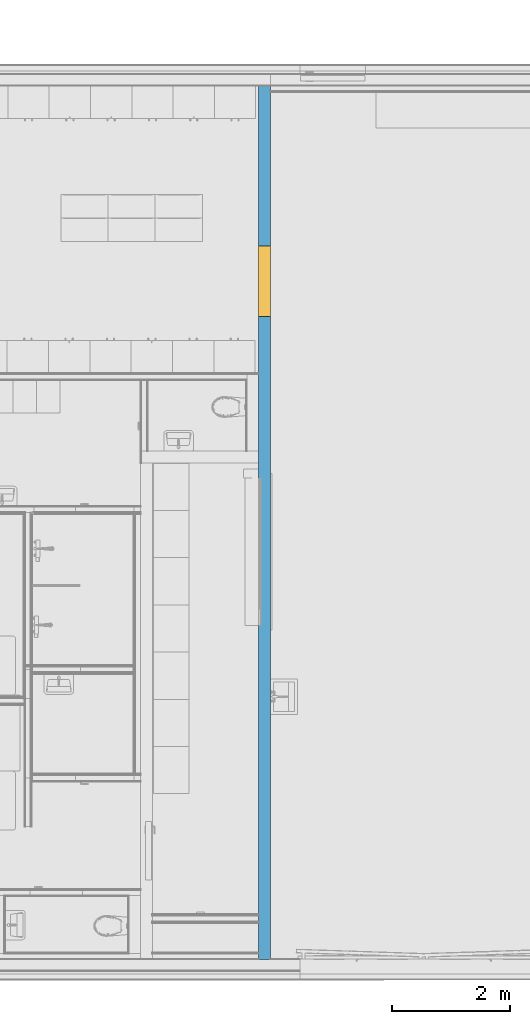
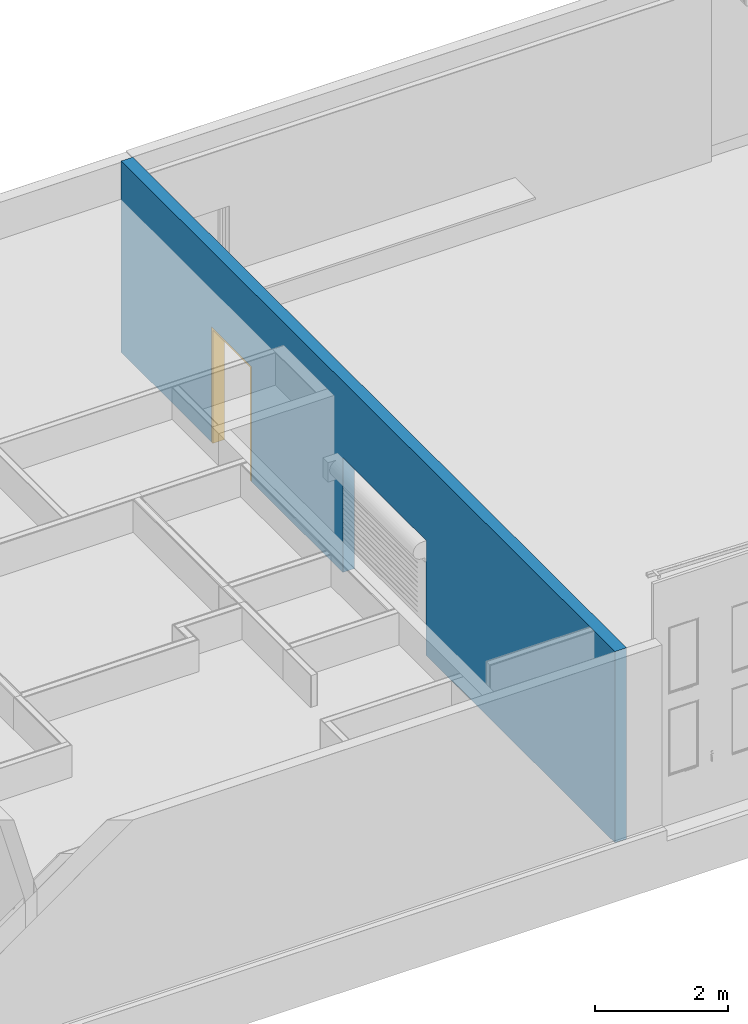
# One storey, part 17 of 67: 1 building element part, 1 door, 2 openings, 1 element without a shape of its own.
"""IFC4 building model written with IfcOpenShell, lengths in millimetres."""

import ifcopenshell
import ifcopenshell.guid

model = None  # the IFC model being written
_history = None  # IfcOwnerHistory: only IFC2X3 demands one
_inside = {}  # id of a spatial element -> (the spatial element, [elements in it])
_under = {}  # id of a project, library or spatial element -> (it, [spatial elements below it])
_declared = {}  # id of a project -> (the project, [libraries it declares])
_typed = {}  # id of a type object -> (the type object, [elements of that type])
_made_of = {}  # id of a material, layer set ... -> (it, [elements and type objects made of it])


def new_model(schema):
    """Start an empty IFC model of exactly this schema.

    Asked for "IFC4X3", IfcOpenShell would pick the latest addendum, in which some entities
    have other attributes; the version numbers below select the first issue.
    IFC2X3 requires an IfcOwnerHistory on every rooted entity: one is made here for all.
    """
    global model, _history
    if schema == "IFC4X3":
        model = ifcopenshell.file(schema_version=(4, 3, 0, 0))
    else:
        model = ifcopenshell.file(schema=schema)
    _inside.clear()
    _under.clear()
    _declared.clear()
    _typed.clear()
    _made_of.clear()
    _history = None
    if model.schema == "IFC2X3":
        org = make("IfcOrganization", Name="unknown")
        user = make(
            "IfcPersonAndOrganization",
            ThePerson=make("IfcPerson", FamilyName="unknown"),
            TheOrganization=org,
        )
        app = make(
            "IfcApplication",
            ApplicationDeveloper=org,
            Version="unknown",
            ApplicationFullName="unknown",
            ApplicationIdentifier="unknown",
        )
        _history = make(
            "IfcOwnerHistory",
            OwningUser=user,
            OwningApplication=app,
            ChangeAction="ADDED",
            CreationDate=0,
        )
    return model


def make(cls, **values):
    """One entity of the class cls with the attributes given. An attribute that is None is left unset."""
    return model.create_entity(
        cls, **{name: value for name, value in values.items() if value is not None}
    )


def entity(cls, *values):
    """Any entity or typed value of the class cls, its attributes in the order of the schema. None: left unset."""
    e = model.create_entity(cls)
    for i, value in enumerate(values):
        if value is not None:
            e[i] = value
    return e


def rooted(cls, **values):
    """An entity with a GlobalId (a new one), such as an element, a storey or a relation."""
    return make(cls, GlobalId=ifcopenshell.guid.new(), OwnerHistory=_history, **values)


def si_unit(unit_type, name, prefix=None):
    """IfcSIUnit, for example si_unit("LENGTHUNIT", "METRE", prefix="MILLI")."""
    return make("IfcSIUnit", UnitType=unit_type, Prefix=prefix, Name=name)


def converted_unit(unit_type, name, factor, base, dimensions=None, offset=None):
    """IfcConversionBasedUnit, such as the inch: factor (a typed value) times the base unit."""
    return make(
        "IfcConversionBasedUnit"
        if offset is None
        else "IfcConversionBasedUnitWithOffset",
        ConversionOffset=offset,
        Dimensions=None
        if dimensions is None
        else entity("IfcDimensionalExponents", *dimensions),
        UnitType=unit_type,
        Name=name,
        ConversionFactor=make(
            "IfcMeasureWithUnit", ValueComponent=factor, UnitComponent=base
        ),
    )


def assignment(units):
    """IfcUnitAssignment: the units of a project."""
    return None if units is None else make("IfcUnitAssignment", Units=units)


def point(xyz):
    """IfcCartesianPoint."""
    return None if xyz is None else make("IfcCartesianPoint", Coordinates=xyz)


def direction(xyz):
    """IfcDirection."""
    return None if xyz is None else make("IfcDirection", DirectionRatios=xyz)


def frame(location, z_axis=None, x_axis=None):
    """IfcAxis2Placement3D, a coordinate frame: its origin and axes. An axis left out is left unset."""
    return make(
        "IfcAxis2Placement3D",
        Location=point(location),
        Axis=direction(z_axis),
        RefDirection=direction(x_axis),
    )


def origin():
    """The frame at (0, 0, 0) with its axes left unset."""
    return frame((0.0, 0.0, 0.0))


def place(relative_to, where):
    """IfcLocalPlacement: puts the frame where relative to a parent placement (None: the world)."""
    return make(
        "IfcLocalPlacement", PlacementRelTo=relative_to, RelativePlacement=where
    )


def context(
    kind, dimensions, precision=None, world=None, true_north=None, identifier=None
):
    """IfcGeometricRepresentationContext, for example the 3D "Model" context."""
    return make(
        "IfcGeometricRepresentationContext",
        ContextIdentifier=identifier,
        ContextType=kind,
        CoordinateSpaceDimension=dimensions,
        Precision=precision,
        WorldCoordinateSystem=world,
        TrueNorth=true_north,
    )


def subcontext(parent, identifier, kind, view, scale=None):
    """IfcGeometricRepresentationSubContext, for example "Body" below "Model"."""
    return make(
        "IfcGeometricRepresentationSubContext",
        ContextIdentifier=identifier,
        ContextType=kind,
        ParentContext=parent,
        TargetScale=scale,
        TargetView=view,
    )


def project(units=None, contexts=None):
    """IfcProject with its units and contexts."""
    return rooted(
        "IfcProject",
        Name="project",
        RepresentationContexts=contexts,
        UnitsInContext=assignment(units),
    )


def spatial(cls, under=None, at=None, **own):
    """A site, building, storey or space (cls), placed at a placement, below another one or the project."""
    s = rooted(cls, ObjectPlacement=at, **own)
    if under is not None:
        _under.setdefault(under.id(), (under, []))[1].append(s)
    return s


def point_list(points):
    """IfcCartesianPointList2D or 3D."""
    cls = (
        "IfcCartesianPointList2D" if len(points[0]) == 2 else "IfcCartesianPointList3D"
    )
    return make(cls, CoordList=points)


def indexed_curve(points, segments=None, self_intersect=None):
    """IfcIndexedPolyCurve: lines and arcs through numbered points (the first is 1)."""
    return make(
        "IfcIndexedPolyCurve",
        Points=point_list(points),
        Segments=segments,
        SelfIntersect=self_intersect,
    )


def outline(outer, holes=None, kind="AREA"):
    """IfcArbitraryClosedProfileDef: a profile drawn as a closed curve; with holes, ...WithVoids."""
    if holes is None:
        return make("IfcArbitraryClosedProfileDef", ProfileType=kind, OuterCurve=outer)
    return make(
        "IfcArbitraryProfileDefWithVoids",
        ProfileType=kind,
        OuterCurve=outer,
        InnerCurves=holes,
    )


def extrude(swept, where, along, depth):
    """IfcExtrudedAreaSolid: the profile swept, set in the frame where, extruded along a direction by depth."""
    return make(
        "IfcExtrudedAreaSolid",
        SweptArea=swept,
        Position=where,
        ExtrudedDirection=direction(along),
        Depth=depth,
    )


def polygons(points, faces, closed=None, point_numbers=None):
    """IfcPolygonalFaceSet: a face is its outer loop, then its inner loops; points numbered from 1."""
    made = []
    for loops in faces:
        if len(loops) == 1:
            made.append(make("IfcIndexedPolygonalFace", CoordIndex=loops[0]))
        else:
            made.append(
                make(
                    "IfcIndexedPolygonalFaceWithVoids",
                    CoordIndex=loops[0],
                    InnerCoordIndices=loops[1:],
                )
            )
    return make(
        "IfcPolygonalFaceSet",
        Coordinates=point_list(points),
        Closed=closed,
        Faces=made,
        PnIndex=point_numbers,
    )


def shape(context_of_items, identifier, shape_type, items):
    """IfcShapeRepresentation: the items that make up one representation, for example the "Body"."""
    return make(
        "IfcShapeRepresentation",
        ContextOfItems=context_of_items,
        RepresentationIdentifier=identifier,
        RepresentationType=shape_type,
        Items=items,
    )


def source(mapping_origin, context_of_items, identifier, shape_type, items):
    """IfcRepresentationMap: a shape defined once, which mapped items show again and again."""
    return make(
        "IfcRepresentationMap",
        MappingOrigin=mapping_origin,
        MappedRepresentation=shape(context_of_items, identifier, shape_type, items),
    )


def transform(
    local_origin,
    x_axis=None,
    y_axis=None,
    z_axis=None,
    scale=None,
    scale2=None,
    scale3=None,
    uniform=True,
):
    """IfcCartesianTransformationOperator3D, or its non-uniform kind. x_axis, y_axis, z_axis: its Axis1, 2, 3."""
    if uniform:
        return make(
            "IfcCartesianTransformationOperator3D",
            Axis1=direction(x_axis),
            Axis2=direction(y_axis),
            LocalOrigin=point(local_origin),
            Scale=scale,
            Axis3=direction(z_axis),
        )
    return make(
        "IfcCartesianTransformationOperator3DnonUniform",
        Axis1=direction(x_axis),
        Axis2=direction(y_axis),
        LocalOrigin=point(local_origin),
        Scale=scale,
        Axis3=direction(z_axis),
        Scale2=scale2,
        Scale3=scale3,
    )


def mapped(mapping_source, mapping_target):
    """IfcMappedItem: shows the shape of a source again, moved by a transform."""
    return make(
        "IfcMappedItem", MappingSource=mapping_source, MappingTarget=mapping_target
    )


def material(Name=None, Category=None):
    """IfcMaterial."""
    return make("IfcMaterial", Name=Name, Category=Category)


def made_of(thing, what):
    """Note that an element or type object is made of a material, layer set ...; save() writes the relation."""
    if what is not None:
        _made_of.setdefault(what.id(), (what, []))[1].append(thing)
    return thing


def type_object(cls, material=None, **own):
    """A type object (cls), such as IfcWallType, which elements share."""
    return made_of(rooted(cls, **own), material)


def type_shapes(of_type, sources):
    """Give a type object the sources (RepresentationMaps) that its elements show as mapped items."""
    of_type.RepresentationMaps = sources


def element(
    cls,
    number,
    at=None,
    inside=None,
    cuts=None,
    type_object=None,
    material=None,
    context=None,
    identifier="Body",
    shape_type=None,
    held_by="IfcProductDefinitionShape",
    body=None,
    shapes=None,
    **own,
):
    """One element of the class cls, such as IfcWall. Its Tag is "e" and its number.

    at: its placement. inside: the storey or other place that contains it. cuts: it is an
    opening in that element (IfcRelVoidsElement). A single representation is given by context,
    identifier, shape_type and body (its items); several are given by shapes. held_by: the class
    of the entity that holds the representations. save() writes the other relations.
    """
    e = rooted(cls, Tag="e%d" % number, ObjectPlacement=at, **own)
    if body is not None:
        shapes = [shape(context, identifier, shape_type, body)]
    if shapes is not None:
        e.Representation = make(held_by, Representations=shapes)
    if inside is not None:
        _inside.setdefault(inside.id(), (inside, []))[1].append(e)
    if cuts is not None:
        rooted(
            "IfcRelVoidsElement", RelatingBuildingElement=cuts, RelatedOpeningElement=e
        )
    if type_object is not None:
        _typed.setdefault(type_object.id(), (type_object, []))[1].append(e)
    return made_of(e, material)


def fill(opening, filler):
    """IfcRelFillsElement: the door or window that sits in an opening."""
    return rooted(
        "IfcRelFillsElement",
        RelatingOpeningElement=opening,
        RelatedBuildingElement=filler,
    )


def aggregate(whole, parts):
    """IfcRelAggregates: a whole, such as a stair, and the parts it consists of."""
    return rooted("IfcRelAggregates", RelatingObject=whole, RelatedObjects=parts)


def save(model, path):
    """Write the relations noted so far, then the file.

    IfcRelAggregates (storeys below a building ...), IfcRelContainedInSpatialStructure (elements
    in a storey), IfcRelDefinesByType, IfcRelAssociatesMaterial and IfcRelDeclares: one each for
    every whole, place, type object, material and project.
    """
    for whole, parts in _under.values():
        aggregate(whole, parts)
    for where, things in _inside.values():
        rooted(
            "IfcRelContainedInSpatialStructure",
            RelatedElements=things,
            RelatingStructure=where,
        )
    for kind, things in _typed.values():
        rooted("IfcRelDefinesByType", RelatedObjects=things, RelatingType=kind)
    for what, things in _made_of.values():
        rooted("IfcRelAssociatesMaterial", RelatedObjects=things, RelatingMaterial=what)
    for by, libraries in _declared.values():
        rooted("IfcRelDeclares", RelatingContext=by, RelatedDefinitions=libraries)
    model.write(path)


model = new_model("IFC4")

# Units and contexts
model_context = context("Model", 3, precision=0.01, world=origin(), true_north=direction((0.0, 1.0)))
body_context = subcontext(model_context, "Body", "Model", "MODEL_VIEW")
ifc_project = project(units=[si_unit("LENGTHUNIT", "METRE", prefix="MILLI"), si_unit("AREAUNIT", "SQUARE_METRE"), si_unit("VOLUMEUNIT", "CUBIC_METRE"), converted_unit("PLANEANGLEUNIT", "DEGREE", entity("IfcPlaneAngleMeasure", 0.017453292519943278), si_unit("PLANEANGLEUNIT", "RADIAN"), dimensions=[0, 0, 0, 0, 0, 0, 0])], contexts=[model_context])

# Site, building, storey
site_placement = place(None, origin())
site = spatial("IfcSite", under=ifc_project, at=site_placement, Name="Tomtens navn", CompositionType="ELEMENT")
building_placement = place(site_placement, origin())
building = spatial("IfcBuilding", under=site, at=building_placement, Name="Byggets navn", CompositionType="ELEMENT")
storey_placement = place(building_placement, origin())
storey = spatial("IfcBuildingStorey", under=building, at=storey_placement, Name="Level 01", CompositionType="ELEMENT", Elevation=2.1993652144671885e-25)

# Door
ifc_material_1 = material(Name="<Unnamed>")
door_type = type_object("IfcDoorType", Name="M_Door_ID_Cased-Opening:1200 x 2110mm 2", OperationType="NOTDEFINED", PredefinedType="DOOR", material=ifc_material_1)
shared_shape = source(origin(), body_context, "Body", "Tessellation", [
    polygons([(1159.999999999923, 1.0151879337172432e-13, 0.0), (1159.999999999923, 199.9999999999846, 0.0), (1200.0000000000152, 199.9999999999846, 0.0), (1200.0000000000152, 1.0151879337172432e-13, 0.0), (1200.0000000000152, 1.0151879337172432e-13, 2109.999999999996), (1159.999999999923, 1.0151879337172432e-13, 2069.9999999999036), (1200.0000000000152, 199.9999999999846, 2109.999999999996), (1159.999999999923, 199.9999999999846, 2069.9999999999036), (5.95576921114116e-12, 1.0151879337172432e-13, 2109.999999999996), (40.00000000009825, 1.0151879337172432e-13, 2069.9999999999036), (5.95576921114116e-12, 199.9999999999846, 2109.999999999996), (40.00000000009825, 199.9999999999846, 2069.9999999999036), (40.00000000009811, 1.0151879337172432e-13, 0.0), (5.95576921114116e-12, 1.0151879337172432e-13, 0.0), (5.888090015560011e-12, 199.9999999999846, 0.0), (40.00000000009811, 199.9999999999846, 0.0)], [[[1, 2, 3, 4]], [[4, 5, 6, 1]], [[3, 7, 5, 4]], [[2, 8, 7, 3]], [[1, 6, 8, 2]], [[5, 9, 10, 6]], [[7, 11, 9, 5]], [[8, 12, 11, 7]], [[6, 10, 12, 8]], [[13, 14, 15, 16]], [[9, 14, 13, 10]], [[11, 15, 14, 9]], [[12, 16, 15, 11]], [[10, 13, 16, 12]]], closed=True),
])
type_shapes(door_type, [shared_shape])
wall_placement = place(storey_placement, frame((68722.85352810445, 22861.466456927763, 0.0), z_axis=(0.0, 0.0, 1.0), x_axis=(0.0, -1.0, 0.0)))
opening_1_placement = place(wall_placement, frame((2710.0, -100.0, 0.0)))
door_placement = place(opening_1_placement, origin())
door = element("IfcDoor", 1, at=door_placement, inside=storey, type_object=door_type, material=ifc_material_1, Name="M_Door_ID_Cased-Opening:1200 x 2110mm 2", OverallHeight=2109.9999999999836, OverallWidth=1200.0, PredefinedType="DOOR", context=body_context, shape_type="MappedRepresentation", body=[
    mapped(shared_shape, transform((0.0, 0.0, 0.0), scale=1.0)),
])

# Wall, opening
wall_type = type_object("IfcWallType", Name="Basic Wall:IV21 Betong 200", PredefinedType="STANDARD")
wall = element("IfcWall", 2, at=wall_placement, inside=storey, type_object=wall_type, Name="Basic Wall:IV21 Betong 200", PredefinedType="NOTDEFINED")
opening_1 = element("IfcOpeningElement", 3, at=opening_1_placement, cuts=wall, Name="M_Door_ID_Cased-Opening:1200 x 2110mm 2:1", PredefinedType="OPENING", context=body_context, shape_type="SweptSolid", body=[
    extrude(outline(indexed_curve([(0.0, 1.08286712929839e-12), (2109.9999999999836, 1.08286712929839e-12), (2109.9999999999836, 1200.0), (0.0, 1200.0), (0.0, 1.08286712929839e-12)], self_intersect=False)), frame((0.0, 0.0, 0.0), z_axis=(0.0, 1.0, 0.0), x_axis=(0.0, 0.0, 1.0)), (0.0, 0.0, 1.0), 200.0),
])

fill(opening_1, door)

# Opening
opening_2_placement = place(wall_placement, frame((6645.0, -100.0, 0.0)))
element("IfcOpeningElement", 4, at=opening_2_placement, cuts=wall, Name="Garage Door_3:P03 2500 x 2100:1", PredefinedType="OPENING", context=body_context, shape_type="SweptSolid", body=[
    extrude(outline(indexed_curve([(0.0, -5.414335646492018e-13), (2100.0, -5.414335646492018e-13), (2100.0, 2499.999999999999), (0.0, 2499.999999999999), (0.0, -5.414335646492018e-13)], self_intersect=False)), frame((0.0, 0.0, 0.0), z_axis=(0.0, 1.0, 0.0), x_axis=(0.0, 0.0, 1.0)), (0.0, 0.0, 1.0), 200.0),
])

# Building element part
ifc_material_2 = material(Name="NO_Betong - Plasstøpt", Category="Betong")
building_element_part_placement = place(wall_placement, frame((14802.0, -100.0, 0.0)))
building_element_part = element("IfcBuildingElementPart", 5, at=building_element_part_placement, material=ifc_material_2, Name="NO_Betong - Plasstøpt", context=body_context, shape_type="Tessellation", body=[
    polygons([(-14802.000000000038, -4.423692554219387e-12, 2.1993652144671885e-25), (-14802.000000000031, -4.423692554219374e-12, 200.00000000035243), (-14801.999999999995, -4.423692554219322e-12, 3499.999999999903), (-14801.999999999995, 199.99999999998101, 3499.999999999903), (-14802.000000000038, 199.99999999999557, 200.0), (-14802.000000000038, 199.99999999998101, 2.1993652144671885e-25), (-12092.000000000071, -4.493373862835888e-13, 2.1993652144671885e-25), (-12092.000000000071, 199.999999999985, 2.1993652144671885e-25), (-12092.000000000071, -4.493373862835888e-13, 200.0000000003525), (-12092.000000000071, 199.99999999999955, 200.00000000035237), (-12092.000000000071, 199.999999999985, 2109.9999999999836), (-12092.000000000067, -4.4933738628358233e-13, 2109.9999999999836), (-10892.000000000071, -1.3241390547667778e-11, 2.1993652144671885e-25), (-10892.000000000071, 1.310524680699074e-12, 200.00000000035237), (-10892.000000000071, 1.310524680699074e-12, 2109.9999999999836), (-10892.000000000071, 199.99999999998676, 2109.9999999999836), (-10892.000000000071, 200.0000000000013, 200.0000000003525), (-10892.000000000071, 199.99999999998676, 2.1993652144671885e-25), (-8610.99999999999, -9.896186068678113e-12, 2.1993652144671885e-25), (-8156.999999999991, 199.99999999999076, 2.1993652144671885e-25), (-8156.999999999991, -9.230371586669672e-12, 2.1993652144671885e-25), (-8410.99999999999, -9.602875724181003e-12, 2.1993652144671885e-25), (-8156.999999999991, -9.230371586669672e-12, 200.0000000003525), (-8156.999999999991, 199.99999999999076, 200.00000000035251), (-8156.999999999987, 199.99999999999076, 2100.0), (-8156.999999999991, -9.230371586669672e-12, 2100.0), (-5656.999999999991, -5.563992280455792e-12, 2.1993652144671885e-25), (-5656.999999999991, -5.563992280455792e-12, 200.00000000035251), (-5656.999999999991, -5.563992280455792e-12, 2100.0), (-5656.999999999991, 199.99999999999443, 2100.0), (-5656.999999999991, 199.99999999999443, 200.0000000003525), (-5656.999999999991, 199.99999999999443, 2.1993652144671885e-25), (-760.9999999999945, -1.2935670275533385e-11, 2.1993652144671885e-25), (-2.0, 199.99999999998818, 2.1993652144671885e-25), (-2.0, -1.1822557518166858e-11, 2.1993652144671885e-25), (-3.999999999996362, -1.1825490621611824e-11, 2.1993652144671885e-25), (-113.99999999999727, -1.1986811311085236e-11, 2.1993652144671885e-25), (-613.9999999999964, -1.2720087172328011e-11, 2.1993652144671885e-25), (-1.9999999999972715, -1.1822557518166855e-11, 200.0000000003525), (-1.9999999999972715, 199.99999999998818, 200.00000000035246), (2.7284841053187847e-12, 199.99999999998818, 3499.999999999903), (2.7284841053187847e-12, 199.99999999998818, 200.0000000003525), (2.7284841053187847e-12, -1.1819624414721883e-11, 200.0000000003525), (-613.9999999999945, -1.2720087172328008e-11, 3499.999999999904), (2.7284841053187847e-12, -1.1819624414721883e-11, 3499.999999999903), (-760.9999999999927, -1.2935670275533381e-11, 3499.999999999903)], [[[1, 2, 3, 4, 5, 6]], [[7, 1, 6, 8]], [[9, 7, 8, 10, 11, 12]], [[13, 14, 15, 16, 17, 18]], [[19, 13, 18, 20, 21, 22]], [[23, 21, 20, 24, 25, 26]], [[27, 28, 29, 30, 31, 32]], [[33, 27, 32, 34, 35, 36, 37, 38]], [[39, 35, 34, 40]], [[40, 34, 32, 31, 30, 25, 24, 20, 18, 17, 16, 11, 10, 8, 6, 5, 4, 41, 42]], [[42, 43, 39, 40]], [[44, 45, 41, 4, 3, 46]], [[15, 12, 11, 16]], [[29, 26, 25, 30]], [[43, 42, 41, 45]], [[28, 27, 33, 38, 37, 36, 35, 39, 43, 45, 44, 46, 3, 2, 1, 7, 9, 12, 15, 14, 13, 19, 22, 21, 23, 26, 29]]], closed=True),
])

aggregate(wall, [building_element_part])

save(model, "model.ifc")
